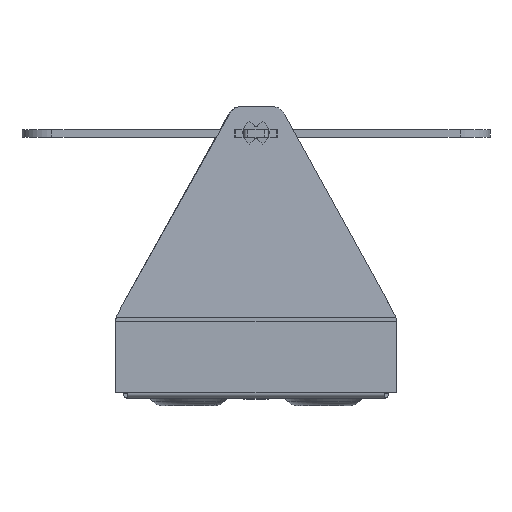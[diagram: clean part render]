
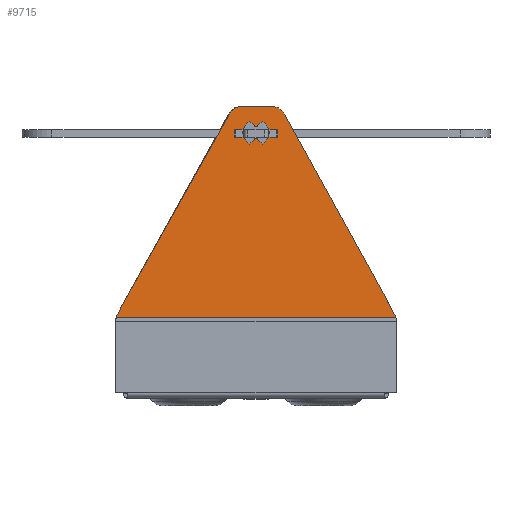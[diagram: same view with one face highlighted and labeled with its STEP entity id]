
A CAD part, left-side view. The second image highlights one B-rep face of the part: STEP entity #9715.
In plain terms, the highlighted planar face has unit normal (-0.999, 0, 0.035).
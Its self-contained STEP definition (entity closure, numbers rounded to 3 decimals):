
#10 = AXIS2_PLACEMENT_3D ( 'NONE', #5167, #214, #6005 ) ;
#27 = CARTESIAN_POINT ( 'NONE',  ( 1.676, 34.604, 72.688 ) ) ;
#118 = AXIS2_PLACEMENT_3D ( 'NONE', #4375, #10208, #5213 ) ;
#144 = ORIENTED_EDGE ( 'NONE', *, *, #155, .T. ) ;
#155 = EDGE_CURVE ( 'NONE', #6211, #4277, #7394, .T. ) ;
#214 = DIRECTION ( 'NONE',  ( -0.999, 0., 0.035 ) ) ;
#313 = CARTESIAN_POINT ( 'NONE',  ( -0.109, -3.109, 21.576 ) ) ;
#425 = CARTESIAN_POINT ( 'NONE',  ( -0.079, -2.755, 22.451 ) ) ;
#594 = CARTESIAN_POINT ( 'NONE',  ( 1.54, 34.25, 68.801 ) ) ;
#642 = ORIENTED_EDGE ( 'NONE', *, *, #7090, .F. ) ;
#749 = EDGE_CURVE ( 'NONE', #2122, #4599, #2849, .T. ) ;
#812 = DIRECTION ( 'NONE',  ( 0.025, 0.707, 0.707 ) ) ;
#831 = CARTESIAN_POINT ( 'NONE',  ( 1.614, 34.25, 70.921 ) ) ;
#907 = EDGE_CURVE ( 'NONE', #6706, #4599, #3726, .T. ) ;
#1166 = ORIENTED_EDGE ( 'NONE', *, *, #4668, .T. ) ;
#1174 = DIRECTION ( 'NONE',  ( 0.999, 0., -0.035 ) ) ;
#1261 = AXIS2_PLACEMENT_3D ( 'NONE', #3221, #9048, #4045 ) ;
#1270 = VERTEX_POINT ( 'NONE', #5348 ) ;
#1425 = CARTESIAN_POINT ( 'NONE',  ( 1.858, 30.116, 77.917 ) ) ;
#1514 = AXIS2_PLACEMENT_3D ( 'NONE', #594, #5566, #4718 ) ;
#1646 = CIRCLE ( 'NONE', #4383, 0.5 ) ;
#1662 = EDGE_CURVE ( 'NONE', #4184, #6395, #7480, .T. ) ;
#1669 = DIRECTION ( 'NONE',  ( 0.035, 0., 0.999 ) ) ;
#1671 = ORIENTED_EDGE ( 'NONE', *, *, #9265, .F. ) ;
#2002 = CARTESIAN_POINT ( 'NONE',  ( 1.507, 35.915, 67.844 ) ) ;
#2027 = CARTESIAN_POINT ( 'NONE',  ( 1.676, 34.604, 72.688 ) ) ;
#2071 = VERTEX_POINT ( 'NONE', #8818 ) ;
#2099 = DIRECTION ( 'NONE',  ( 0.025, -0.707, 0.707 ) ) ;
#2122 = VERTEX_POINT ( 'NONE', #5568 ) ;
#2124 = CARTESIAN_POINT ( 'NONE',  ( -0.109, 0., 21.576 ) ) ;
#2339 = ORIENTED_EDGE ( 'NONE', *, *, #5469, .F. ) ;
#2426 = EDGE_CURVE ( 'NONE', #2520, #9808, #8910, .T. ) ;
#2451 = ORIENTED_EDGE ( 'NONE', *, *, #3008, .T. ) ;
#2520 = VERTEX_POINT ( 'NONE', #313 ) ;
#2549 = LINE ( 'NONE', #5617, #9185 ) ;
#2584 = AXIS2_PLACEMENT_3D ( 'NONE', #10295, #5292, #9508 ) ;
#2712 = CIRCLE ( 'NONE', #118, 4. ) ;
#2767 = PLANE ( 'NONE',  #8821 ) ;
#2849 = CIRCLE ( 'NONE', #2584, 4. ) ;
#2952 = CARTESIAN_POINT ( 'NONE',  ( 1.858, 27.75, 77.917 ) ) ;
#3008 = EDGE_CURVE ( 'NONE', #8833, #8193, #8805, .T. ) ;
#3061 = EDGE_CURVE ( 'NONE', #3788, #1270, #1646, .T. ) ;
#3221 = CARTESIAN_POINT ( 'NONE',  ( 1.688, 34.25, 73.041 ) ) ;
#3327 = EDGE_CURVE ( 'NONE', #6395, #6211, #3707, .T. ) ;
#3358 = ORIENTED_EDGE ( 'NONE', *, *, #7467, .T. ) ;
#3380 = CARTESIAN_POINT ( 'NONE',  ( 1.721, 35.915, 73.998 ) ) ;
#3480 = VECTOR ( 'NONE', #4722, 1000. ) ;
#3504 = EDGE_LOOP ( 'NONE', ( #6036, #10098, #9551, #10616, #8679, #144, #1166, #3358, #2451 ) ) ;
#3707 = LINE ( 'NONE', #6600, #10105 ) ;
#3726 = LINE ( 'NONE', #8884, #3480 ) ;
#3788 = VERTEX_POINT ( 'NONE', #5385 ) ;
#3798 = LINE ( 'NONE', #8124, #5500 ) ;
#3866 = ORIENTED_EDGE ( 'NONE', *, *, #2426, .T. ) ;
#3969 = DIRECTION ( 'NONE',  ( 0.03, -0.488, 0.873 ) ) ;
#3975 = VERTEX_POINT ( 'NONE', #8144 ) ;
#4042 = CARTESIAN_POINT ( 'NONE',  ( 1.858, 37.902, 77.917 ) ) ;
#4045 = DIRECTION ( 'NONE',  ( -0.035, 0., -0.999 ) ) ;
#4068 = LINE ( 'NONE', #2952, #8521 ) ;
#4184 = VERTEX_POINT ( 'NONE', #9290 ) ;
#4244 = LINE ( 'NONE', #9532, #6442 ) ;
#4277 = VERTEX_POINT ( 'NONE', #6865 ) ;
#4375 = CARTESIAN_POINT ( 'NONE',  ( 1.719, 37.902, 73.92 ) ) ;
#4376 = VECTOR ( 'NONE', #4478, 1000. ) ;
#4383 = AXIS2_PLACEMENT_3D ( 'NONE', #9637, #4618, #10448 ) ;
#4422 = CARTESIAN_POINT ( 'NONE',  ( -0.808, 0., 1.564 ) ) ;
#4478 = DIRECTION ( 'NONE',  ( -0.025, -0.707, -0.707 ) ) ;
#4488 = CARTESIAN_POINT ( 'NONE',  ( 1.507, 32.585, 67.844 ) ) ;
#4522 = AXIS2_PLACEMENT_3D ( 'NONE', #831, #6622, #1669 ) ;
#4567 = DIRECTION ( 'NONE',  ( -0.999, 0., 0.035 ) ) ;
#4599 = VERTEX_POINT ( 'NONE', #1425 ) ;
#4604 = DIRECTION ( 'NONE',  ( -0.031, -0.482, -0.876 ) ) ;
#4618 = DIRECTION ( 'NONE',  ( -0.999, 0., 0.035 ) ) ;
#4668 = EDGE_CURVE ( 'NONE', #4277, #9745, #2549, .T. ) ;
#4718 = DIRECTION ( 'NONE',  ( 0.035, 0., 0.999 ) ) ;
#4722 = DIRECTION ( 'NONE',  ( 0., -1., 0. ) ) ;
#4940 = ORIENTED_EDGE ( 'NONE', *, *, #907, .F. ) ;
#5167 = CARTESIAN_POINT ( 'NONE',  ( -0.146, 0.75, 20.525 ) ) ;
#5213 = DIRECTION ( 'NONE',  ( 0.035, 0., 0.999 ) ) ;
#5253 = DIRECTION ( 'NONE',  ( 0.035, 0., 0.999 ) ) ;
#5292 = DIRECTION ( 'NONE',  ( -0.999, 0., 0.035 ) ) ;
#5327 = CIRCLE ( 'NONE', #8866, 3.5 ) ;
#5348 = CARTESIAN_POINT ( 'NONE',  ( 1.676, 33.896, 72.688 ) ) ;
#5385 = CARTESIAN_POINT ( 'NONE',  ( 1.671, 34.25, 72.542 ) ) ;
#5469 = EDGE_CURVE ( 'NONE', #7544, #3975, #3798, .T. ) ;
#5500 = VECTOR ( 'NONE', #3969, 1000. ) ;
#5566 = DIRECTION ( 'NONE',  ( -0.999, 0., 0.035 ) ) ;
#5568 = CARTESIAN_POINT ( 'NONE',  ( 1.786, 26.61, 75.845 ) ) ;
#5617 = CARTESIAN_POINT ( 'NONE',  ( 1.552, 34.604, 69.155 ) ) ;
#5727 = ORIENTED_EDGE ( 'NONE', *, *, #6437, .T. ) ;
#6005 = DIRECTION ( 'NONE',  ( 0.035, 0., 0.999 ) ) ;
#6015 = FACE_BOUND ( 'NONE', #3504, .T. ) ;
#6036 = ORIENTED_EDGE ( 'NONE', *, *, #10311, .T. ) ;
#6123 = CARTESIAN_POINT ( 'NONE',  ( 1.614, 34.25, 70.921 ) ) ;
#6211 = VERTEX_POINT ( 'NONE', #8493 ) ;
#6395 = VERTEX_POINT ( 'NONE', #4488 ) ;
#6437 = EDGE_CURVE ( 'NONE', #7544, #2071, #6635, .T. ) ;
#6442 = VECTOR ( 'NONE', #2099, 1000. ) ;
#6451 = DIRECTION ( 'NONE',  ( -0.025, 0.707, -0.707 ) ) ;
#6600 = CARTESIAN_POINT ( 'NONE',  ( 1.552, 33.896, 69.155 ) ) ;
#6622 = DIRECTION ( 'NONE',  ( 0.999, 0., -0.035 ) ) ;
#6635 = CIRCLE ( 'NONE', #10600, 4. ) ;
#6706 = VERTEX_POINT ( 'NONE', #4042 ) ;
#6865 = CARTESIAN_POINT ( 'NONE',  ( 1.552, 34.604, 69.155 ) ) ;
#6976 = DIRECTION ( 'NONE',  ( -0.035, 0., -0.999 ) ) ;
#7090 = EDGE_CURVE ( 'NONE', #2520, #2071, #10539, .T. ) ;
#7376 = ORIENTED_EDGE ( 'NONE', *, *, #749, .T. ) ;
#7394 = CIRCLE ( 'NONE', #1514, 0.5 ) ;
#7467 = EDGE_CURVE ( 'NONE', #9745, #8833, #5327, .T. ) ;
#7480 = CIRCLE ( 'NONE', #4522, 3.5 ) ;
#7544 = VERTEX_POINT ( 'NONE', #8704 ) ;
#7729 = EDGE_CURVE ( 'NONE', #6706, #3975, #2712, .T. ) ;
#7969 = FACE_OUTER_BOUND ( 'NONE', #8074, .T. ) ;
#8074 = EDGE_LOOP ( 'NONE', ( #642, #3866, #1671, #7376, #4940, #9174, #2339, #5727 ) ) ;
#8124 = CARTESIAN_POINT ( 'NONE',  ( -0.11, 71.75, 21.551 ) ) ;
#8144 = CARTESIAN_POINT ( 'NONE',  ( 1.787, 41.395, 75.869 ) ) ;
#8193 = VERTEX_POINT ( 'NONE', #27 ) ;
#8333 = VECTOR ( 'NONE', #9661, 1000. ) ;
#8493 = CARTESIAN_POINT ( 'NONE',  ( 1.552, 33.896, 69.155 ) ) ;
#8521 = VECTOR ( 'NONE', #4604, 1000. ) ;
#8679 = ORIENTED_EDGE ( 'NONE', *, *, #3327, .T. ) ;
#8704 = CARTESIAN_POINT ( 'NONE',  ( -0.078, 71.242, 22.46 ) ) ;
#8805 = LINE ( 'NONE', #2027, #4376 ) ;
#8818 = CARTESIAN_POINT ( 'NONE',  ( -0.109, 71.605, 21.576 ) ) ;
#8821 = AXIS2_PLACEMENT_3D ( 'NONE', #4422, #10256, #5253 ) ;
#8833 = VERTEX_POINT ( 'NONE', #3380 ) ;
#8866 = AXIS2_PLACEMENT_3D ( 'NONE', #6123, #1174, #6976 ) ;
#8884 = CARTESIAN_POINT ( 'NONE',  ( 1.858, 40.25, 77.917 ) ) ;
#8910 = CIRCLE ( 'NONE', #10, 4. ) ;
#9048 = DIRECTION ( 'NONE',  ( -0.999, 0., 0.035 ) ) ;
#9174 = ORIENTED_EDGE ( 'NONE', *, *, #7729, .T. ) ;
#9185 = VECTOR ( 'NONE', #6451, 1000. ) ;
#9265 = EDGE_CURVE ( 'NONE', #2122, #9808, #4068, .T. ) ;
#9290 = CARTESIAN_POINT ( 'NONE',  ( 1.721, 32.585, 73.998 ) ) ;
#9508 = DIRECTION ( 'NONE',  ( 0.035, 0., 0.999 ) ) ;
#9532 = CARTESIAN_POINT ( 'NONE',  ( 1.676, 33.896, 72.688 ) ) ;
#9551 = ORIENTED_EDGE ( 'NONE', *, *, #10706, .T. ) ;
#9568 = CARTESIAN_POINT ( 'NONE',  ( -0.146, 67.75, 20.511 ) ) ;
#9637 = CARTESIAN_POINT ( 'NONE',  ( 1.688, 34.25, 73.041 ) ) ;
#9661 = DIRECTION ( 'NONE',  ( 0., 1., 0. ) ) ;
#9715 = ADVANCED_FACE ( 'NONE', ( #7969, #6015 ), #2767, .T. ) ;
#9745 = VERTEX_POINT ( 'NONE', #2002 ) ;
#9808 = VERTEX_POINT ( 'NONE', #425 ) ;
#10098 = ORIENTED_EDGE ( 'NONE', *, *, #3061, .T. ) ;
#10105 = VECTOR ( 'NONE', #812, 1000. ) ;
#10134 = CIRCLE ( 'NONE', #1261, 0.5 ) ;
#10208 = DIRECTION ( 'NONE',  ( -0.999, 0., 0.035 ) ) ;
#10256 = DIRECTION ( 'NONE',  ( -0.999, 0., 0.035 ) ) ;
#10295 = CARTESIAN_POINT ( 'NONE',  ( 1.719, 30.116, 73.92 ) ) ;
#10311 = EDGE_CURVE ( 'NONE', #8193, #3788, #10134, .T. ) ;
#10405 = DIRECTION ( 'NONE',  ( 0.035, 0., 0.999 ) ) ;
#10448 = DIRECTION ( 'NONE',  ( -0.035, 0., -0.999 ) ) ;
#10539 = LINE ( 'NONE', #2124, #8333 ) ;
#10600 = AXIS2_PLACEMENT_3D ( 'NONE', #9568, #4567, #10405 ) ;
#10616 = ORIENTED_EDGE ( 'NONE', *, *, #1662, .T. ) ;
#10706 = EDGE_CURVE ( 'NONE', #1270, #4184, #4244, .T. ) ;
